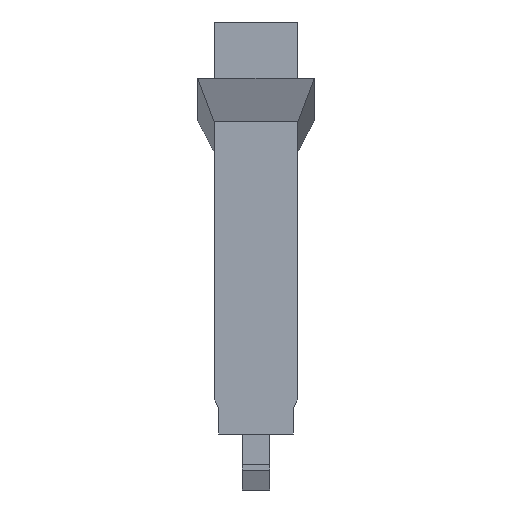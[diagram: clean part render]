
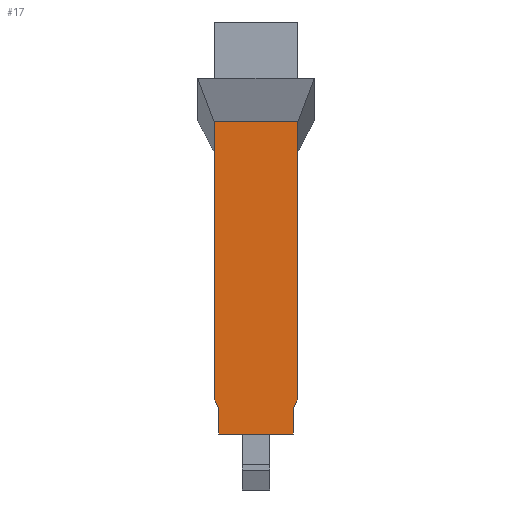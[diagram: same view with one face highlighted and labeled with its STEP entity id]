
A CAD part, left-side view. The second image highlights one B-rep face of the part: STEP entity #17.
In plain terms, the highlighted planar face has unit normal (-1, 0, 0).
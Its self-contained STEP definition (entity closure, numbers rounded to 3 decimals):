
#17 = ADVANCED_FACE('',(#18),#32,.F.);
#18 = FACE_BOUND('',#19,.F.);
#19 = EDGE_LOOP('',(#20,#55,#81,#107,#135,#161,#187,#215));
#20 = ORIENTED_EDGE('',*,*,#21,.F.);
#21 = EDGE_CURVE('',#22,#24,#26,.T.);
#22 = VERTEX_POINT('',#23);
#23 = CARTESIAN_POINT('',(-3.6,-3.6,-28.36));
#24 = VERTEX_POINT('',#25);
#25 = CARTESIAN_POINT('',(-3.6,-3.6,-4.649));
#26 = SURFACE_CURVE('',#27,(#31,#43),.PCURVE_S1.);
#27 = LINE('',#28,#29);
#28 = CARTESIAN_POINT('',(-3.6,-3.6,-31.46));
#29 = VECTOR('',#30,1.);
#30 = DIRECTION('',(0.,0.,1.));
#31 = PCURVE('',#32,#37);
#32 = PLANE('',#33);
#33 = AXIS2_PLACEMENT_3D('',#34,#35,#36);
#34 = CARTESIAN_POINT('',(-3.6,-3.6,-31.46));
#35 = DIRECTION('',(1.,0.,-0.));
#36 = DIRECTION('',(0.,0.,1.));
#37 = DEFINITIONAL_REPRESENTATION('',(#38),#42);
#38 = LINE('',#39,#40);
#39 = CARTESIAN_POINT('',(0.,0.));
#40 = VECTOR('',#41,1.);
#41 = DIRECTION('',(1.,0.));
#42 = ( GEOMETRIC_REPRESENTATION_CONTEXT(2) 
PARAMETRIC_REPRESENTATION_CONTEXT() REPRESENTATION_CONTEXT('2D SPACE',''
  ) );
#43 = PCURVE('',#44,#49);
#44 = PLANE('',#45);
#45 = AXIS2_PLACEMENT_3D('',#46,#47,#48);
#46 = CARTESIAN_POINT('',(-3.6,-3.6,-31.46));
#47 = DIRECTION('',(-0.,1.,0.));
#48 = DIRECTION('',(0.,0.,1.));
#49 = DEFINITIONAL_REPRESENTATION('',(#50),#54);
#50 = LINE('',#51,#52);
#51 = CARTESIAN_POINT('',(0.,0.));
#52 = VECTOR('',#53,1.);
#53 = DIRECTION('',(1.,0.));
#54 = ( GEOMETRIC_REPRESENTATION_CONTEXT(2) 
PARAMETRIC_REPRESENTATION_CONTEXT() REPRESENTATION_CONTEXT('2D SPACE',''
  ) );
#55 = ORIENTED_EDGE('',*,*,#56,.F.);
#56 = EDGE_CURVE('',#57,#22,#59,.T.);
#57 = VERTEX_POINT('',#58);
#58 = CARTESIAN_POINT('',(-3.6,-3.2,-29.26));
#59 = SURFACE_CURVE('',#60,(#64,#70),.PCURVE_S1.);
#60 = LINE('',#61,#62);
#61 = CARTESIAN_POINT('',(-3.6,-3.025,-29.654));
#62 = VECTOR('',#63,1.);
#63 = DIRECTION('',(0.,-0.406,0.914));
#64 = PCURVE('',#32,#65);
#65 = DEFINITIONAL_REPRESENTATION('',(#66),#69);
#66 = B_SPLINE_CURVE_WITH_KNOTS('',1,(#67,#68),.UNSPECIFIED.,.F.,.F.,(2,
    2),(0.432,1.416),.PIECEWISE_BEZIER_KNOTS.);
#67 = CARTESIAN_POINT('',(2.2,-0.4));
#68 = CARTESIAN_POINT('',(3.1,0.));
#69 = ( GEOMETRIC_REPRESENTATION_CONTEXT(2) 
PARAMETRIC_REPRESENTATION_CONTEXT() REPRESENTATION_CONTEXT('2D SPACE',''
  ) );
#70 = PCURVE('',#71,#76);
#71 = PLANE('',#72);
#72 = AXIS2_PLACEMENT_3D('',#73,#74,#75);
#73 = CARTESIAN_POINT('',(-4.,-3.6,-28.36));
#74 = DIRECTION('',(-0.,0.914,0.406));
#75 = DIRECTION('',(0.,0.406,-0.914));
#76 = DEFINITIONAL_REPRESENTATION('',(#77),#80);
#77 = B_SPLINE_CURVE_WITH_KNOTS('',1,(#78,#79),.UNSPECIFIED.,.F.,.F.,(2,
    2),(0.432,1.416),.PIECEWISE_BEZIER_KNOTS.);
#78 = CARTESIAN_POINT('',(0.985,-0.4));
#79 = CARTESIAN_POINT('',(0.,-0.4));
#80 = ( GEOMETRIC_REPRESENTATION_CONTEXT(2) 
PARAMETRIC_REPRESENTATION_CONTEXT() REPRESENTATION_CONTEXT('2D SPACE',''
  ) );
#81 = ORIENTED_EDGE('',*,*,#82,.F.);
#82 = EDGE_CURVE('',#83,#57,#85,.T.);
#83 = VERTEX_POINT('',#84);
#84 = CARTESIAN_POINT('',(-3.6,-3.2,-31.46));
#85 = SURFACE_CURVE('',#86,(#90,#96),.PCURVE_S1.);
#86 = LINE('',#87,#88);
#87 = CARTESIAN_POINT('',(-3.6,-3.2,-30.36));
#88 = VECTOR('',#89,1.);
#89 = DIRECTION('',(0.,0.,1.));
#90 = PCURVE('',#32,#91);
#91 = DEFINITIONAL_REPRESENTATION('',(#92),#95);
#92 = B_SPLINE_CURVE_WITH_KNOTS('',1,(#93,#94),.UNSPECIFIED.,.F.,.F.,(2,
    2),(-1.1,1.1),.PIECEWISE_BEZIER_KNOTS.);
#93 = CARTESIAN_POINT('',(0.,-0.4));
#94 = CARTESIAN_POINT('',(2.2,-0.4));
#95 = ( GEOMETRIC_REPRESENTATION_CONTEXT(2) 
PARAMETRIC_REPRESENTATION_CONTEXT() REPRESENTATION_CONTEXT('2D SPACE',''
  ) );
#96 = PCURVE('',#97,#102);
#97 = PLANE('',#98);
#98 = AXIS2_PLACEMENT_3D('',#99,#100,#101);
#99 = CARTESIAN_POINT('',(-4.,-3.2,-29.26));
#100 = DIRECTION('',(-0.,1.,0.));
#101 = DIRECTION('',(0.,0.,-1.));
#102 = DEFINITIONAL_REPRESENTATION('',(#103),#106);
#103 = B_SPLINE_CURVE_WITH_KNOTS('',1,(#104,#105),.UNSPECIFIED.,.F.,.F.,
  (2,2),(-1.1,1.1),.PIECEWISE_BEZIER_KNOTS.);
#104 = CARTESIAN_POINT('',(2.2,-0.4));
#105 = CARTESIAN_POINT('',(0.,-0.4));
#106 = ( GEOMETRIC_REPRESENTATION_CONTEXT(2) 
PARAMETRIC_REPRESENTATION_CONTEXT() REPRESENTATION_CONTEXT('2D SPACE',''
  ) );
#107 = ORIENTED_EDGE('',*,*,#108,.T.);
#108 = EDGE_CURVE('',#83,#109,#111,.T.);
#109 = VERTEX_POINT('',#110);
#110 = CARTESIAN_POINT('',(-3.6,3.2,-31.46));
#111 = SURFACE_CURVE('',#112,(#116,#123),.PCURVE_S1.);
#112 = LINE('',#113,#114);
#113 = CARTESIAN_POINT('',(-3.6,-3.6,-31.46));
#114 = VECTOR('',#115,1.);
#115 = DIRECTION('',(-0.,1.,0.));
#116 = PCURVE('',#32,#117);
#117 = DEFINITIONAL_REPRESENTATION('',(#118),#122);
#118 = LINE('',#119,#120);
#119 = CARTESIAN_POINT('',(0.,0.));
#120 = VECTOR('',#121,1.);
#121 = DIRECTION('',(0.,-1.));
#122 = ( GEOMETRIC_REPRESENTATION_CONTEXT(2) 
PARAMETRIC_REPRESENTATION_CONTEXT() REPRESENTATION_CONTEXT('2D SPACE',''
  ) );
#123 = PCURVE('',#124,#129);
#124 = PLANE('',#125);
#125 = AXIS2_PLACEMENT_3D('',#126,#127,#128);
#126 = CARTESIAN_POINT('',(-3.6,-3.6,-31.46));
#127 = DIRECTION('',(0.,0.,1.));
#128 = DIRECTION('',(1.,0.,-0.));
#129 = DEFINITIONAL_REPRESENTATION('',(#130),#134);
#130 = LINE('',#131,#132);
#131 = CARTESIAN_POINT('',(0.,0.));
#132 = VECTOR('',#133,1.);
#133 = DIRECTION('',(0.,1.));
#134 = ( GEOMETRIC_REPRESENTATION_CONTEXT(2) 
PARAMETRIC_REPRESENTATION_CONTEXT() REPRESENTATION_CONTEXT('2D SPACE',''
  ) );
#135 = ORIENTED_EDGE('',*,*,#136,.T.);
#136 = EDGE_CURVE('',#109,#137,#139,.T.);
#137 = VERTEX_POINT('',#138);
#138 = CARTESIAN_POINT('',(-3.6,3.2,-29.26));
#139 = SURFACE_CURVE('',#140,(#144,#150),.PCURVE_S1.);
#140 = LINE('',#141,#142);
#141 = CARTESIAN_POINT('',(-3.6,3.2,-30.36));
#142 = VECTOR('',#143,1.);
#143 = DIRECTION('',(0.,0.,1.));
#144 = PCURVE('',#32,#145);
#145 = DEFINITIONAL_REPRESENTATION('',(#146),#149);
#146 = B_SPLINE_CURVE_WITH_KNOTS('',1,(#147,#148),.UNSPECIFIED.,.F.,.F.,
  (2,2),(-1.1,1.1),.PIECEWISE_BEZIER_KNOTS.);
#147 = CARTESIAN_POINT('',(0.,-6.8));
#148 = CARTESIAN_POINT('',(2.2,-6.8));
#149 = ( GEOMETRIC_REPRESENTATION_CONTEXT(2) 
PARAMETRIC_REPRESENTATION_CONTEXT() REPRESENTATION_CONTEXT('2D SPACE',''
  ) );
#150 = PCURVE('',#151,#156);
#151 = PLANE('',#152);
#152 = AXIS2_PLACEMENT_3D('',#153,#154,#155);
#153 = CARTESIAN_POINT('',(-4.,3.2,-29.26));
#154 = DIRECTION('',(-0.,1.,0.));
#155 = DIRECTION('',(0.,0.,-1.));
#156 = DEFINITIONAL_REPRESENTATION('',(#157),#160);
#157 = B_SPLINE_CURVE_WITH_KNOTS('',1,(#158,#159),.UNSPECIFIED.,.F.,.F.,
  (2,2),(-1.1,1.1),.PIECEWISE_BEZIER_KNOTS.);
#158 = CARTESIAN_POINT('',(2.2,-0.4));
#159 = CARTESIAN_POINT('',(0.,-0.4));
#160 = ( GEOMETRIC_REPRESENTATION_CONTEXT(2) 
PARAMETRIC_REPRESENTATION_CONTEXT() REPRESENTATION_CONTEXT('2D SPACE',''
  ) );
#161 = ORIENTED_EDGE('',*,*,#162,.T.);
#162 = EDGE_CURVE('',#137,#163,#165,.T.);
#163 = VERTEX_POINT('',#164);
#164 = CARTESIAN_POINT('',(-3.6,3.6,-28.36));
#165 = SURFACE_CURVE('',#166,(#170,#176),.PCURVE_S1.);
#166 = LINE('',#167,#168);
#167 = CARTESIAN_POINT('',(-3.6,2.431,-30.99));
#168 = VECTOR('',#169,1.);
#169 = DIRECTION('',(0.,0.406,0.914));
#170 = PCURVE('',#32,#171);
#171 = DEFINITIONAL_REPRESENTATION('',(#172),#175);
#172 = B_SPLINE_CURVE_WITH_KNOTS('',1,(#173,#174),.UNSPECIFIED.,.F.,.F.,
  (2,2),(1.894,2.879),.PIECEWISE_BEZIER_KNOTS.);
#173 = CARTESIAN_POINT('',(2.2,-6.8));
#174 = CARTESIAN_POINT('',(3.1,-7.2));
#175 = ( GEOMETRIC_REPRESENTATION_CONTEXT(2) 
PARAMETRIC_REPRESENTATION_CONTEXT() REPRESENTATION_CONTEXT('2D SPACE',''
  ) );
#176 = PCURVE('',#177,#182);
#177 = PLANE('',#178);
#178 = AXIS2_PLACEMENT_3D('',#179,#180,#181);
#179 = CARTESIAN_POINT('',(-4.,3.6,-28.36));
#180 = DIRECTION('',(0.,0.914,-0.406));
#181 = DIRECTION('',(0.,-0.406,-0.914));
#182 = DEFINITIONAL_REPRESENTATION('',(#183),#186);
#183 = B_SPLINE_CURVE_WITH_KNOTS('',1,(#184,#185),.UNSPECIFIED.,.F.,.F.,
  (2,2),(1.894,2.879),.PIECEWISE_BEZIER_KNOTS.);
#184 = CARTESIAN_POINT('',(0.985,-0.4));
#185 = CARTESIAN_POINT('',(0.,-0.4));
#186 = ( GEOMETRIC_REPRESENTATION_CONTEXT(2) 
PARAMETRIC_REPRESENTATION_CONTEXT() REPRESENTATION_CONTEXT('2D SPACE',''
  ) );
#187 = ORIENTED_EDGE('',*,*,#188,.T.);
#188 = EDGE_CURVE('',#163,#189,#191,.T.);
#189 = VERTEX_POINT('',#190);
#190 = CARTESIAN_POINT('',(-3.6,3.6,-4.649));
#191 = SURFACE_CURVE('',#192,(#196,#203),.PCURVE_S1.);
#192 = LINE('',#193,#194);
#193 = CARTESIAN_POINT('',(-3.6,3.6,-31.46));
#194 = VECTOR('',#195,1.);
#195 = DIRECTION('',(0.,0.,1.));
#196 = PCURVE('',#32,#197);
#197 = DEFINITIONAL_REPRESENTATION('',(#198),#202);
#198 = LINE('',#199,#200);
#199 = CARTESIAN_POINT('',(0.,-7.2));
#200 = VECTOR('',#201,1.);
#201 = DIRECTION('',(1.,0.));
#202 = ( GEOMETRIC_REPRESENTATION_CONTEXT(2) 
PARAMETRIC_REPRESENTATION_CONTEXT() REPRESENTATION_CONTEXT('2D SPACE',''
  ) );
#203 = PCURVE('',#204,#209);
#204 = PLANE('',#205);
#205 = AXIS2_PLACEMENT_3D('',#206,#207,#208);
#206 = CARTESIAN_POINT('',(-3.6,3.6,-31.46));
#207 = DIRECTION('',(-0.,1.,0.));
#208 = DIRECTION('',(0.,0.,1.));
#209 = DEFINITIONAL_REPRESENTATION('',(#210),#214);
#210 = LINE('',#211,#212);
#211 = CARTESIAN_POINT('',(0.,0.));
#212 = VECTOR('',#213,1.);
#213 = DIRECTION('',(1.,0.));
#214 = ( GEOMETRIC_REPRESENTATION_CONTEXT(2) 
PARAMETRIC_REPRESENTATION_CONTEXT() REPRESENTATION_CONTEXT('2D SPACE',''
  ) );
#215 = ORIENTED_EDGE('',*,*,#216,.T.);
#216 = EDGE_CURVE('',#189,#24,#217,.T.);
#217 = SURFACE_CURVE('',#218,(#222,#229),.PCURVE_S1.);
#218 = LINE('',#219,#220);
#219 = CARTESIAN_POINT('',(-3.6,3.6,-4.649));
#220 = VECTOR('',#221,1.);
#221 = DIRECTION('',(0.,-1.,0.));
#222 = PCURVE('',#32,#223);
#223 = DEFINITIONAL_REPRESENTATION('',(#224),#228);
#224 = LINE('',#225,#226);
#225 = CARTESIAN_POINT('',(26.81,-7.2));
#226 = VECTOR('',#227,1.);
#227 = DIRECTION('',(0.,1.));
#228 = ( GEOMETRIC_REPRESENTATION_CONTEXT(2) 
PARAMETRIC_REPRESENTATION_CONTEXT() REPRESENTATION_CONTEXT('2D SPACE',''
  ) );
#229 = PCURVE('',#230,#235);
#230 = B_SPLINE_SURFACE_WITH_KNOTS('',1,1,(
    (#231,#232)
    ,(#233,#234
  )),.UNSPECIFIED.,.F.,.F.,.F.,(2,2),(2,2),(0.,10.),(0.,1.),
  .PIECEWISE_BEZIER_KNOTS.);
#231 = CARTESIAN_POINT('',(-3.6,3.6,-4.649));
#232 = CARTESIAN_POINT('',(-5.,5.,-0.947));
#233 = CARTESIAN_POINT('',(-3.6,-3.6,-4.649));
#234 = CARTESIAN_POINT('',(-5.,-5.,-0.947));
#235 = DEFINITIONAL_REPRESENTATION('',(#236),#239);
#236 = B_SPLINE_CURVE_WITH_KNOTS('',1,(#237,#238),.UNSPECIFIED.,.F.,.F.,
  (2,2),(0.,7.2),.PIECEWISE_BEZIER_KNOTS.);
#237 = CARTESIAN_POINT('',(0.,0.));
#238 = CARTESIAN_POINT('',(10.,0.));
#239 = ( GEOMETRIC_REPRESENTATION_CONTEXT(2) 
PARAMETRIC_REPRESENTATION_CONTEXT() REPRESENTATION_CONTEXT('2D SPACE',''
  ) );
